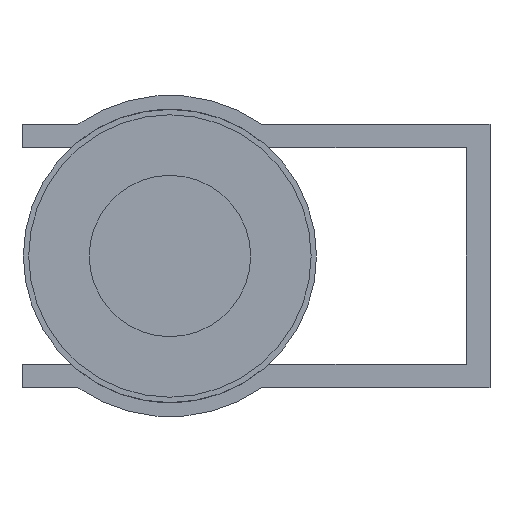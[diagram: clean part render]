
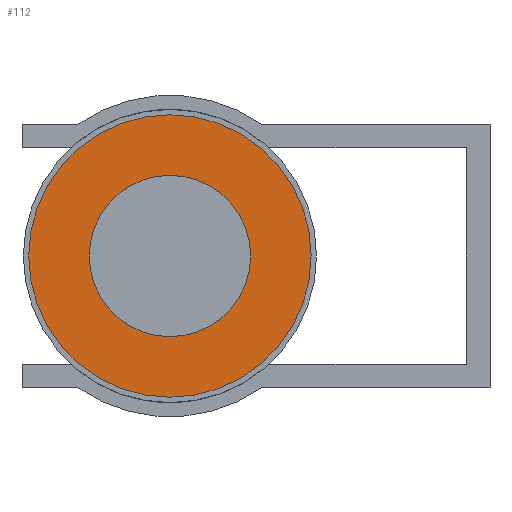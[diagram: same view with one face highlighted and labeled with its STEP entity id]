
A CAD part, left-side view. The second image highlights one B-rep face of the part: STEP entity #112.
In plain terms, the highlighted planar face has unit normal (-1, 0, 0).
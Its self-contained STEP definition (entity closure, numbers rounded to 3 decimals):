
#112=ADVANCED_FACE('',(#225,#226),#227,.F.);
#225=FACE_BOUND('',#362,.T.);
#226=FACE_OUTER_BOUND('',#363,.T.);
#227=PLANE('',#364);
#362=EDGE_LOOP('',(#710));
#363=EDGE_LOOP('',(#711));
#364=AXIS2_PLACEMENT_3D('',#712,#713,#714);
#710=ORIENTED_EDGE('',*,*,#871,.T.);
#711=ORIENTED_EDGE('',*,*,#945,.F.);
#712=CARTESIAN_POINT('',(-45.1,6.0,0.0));
#713=DIRECTION('',(1.0,0.,0.0));
#714=DIRECTION('',(0.,1.0,0.0));
#871=EDGE_CURVE('',#1045,#1045,#1046,.T.);
#945=EDGE_CURVE('',#1159,#1159,#1160,.T.);
#1045=VERTEX_POINT('',#1294);
#1046=CIRCLE('',#1295,6.0);
#1159=VERTEX_POINT('',#1462);
#1160=CIRCLE('',#1463,10.5);
#1294=CARTESIAN_POINT('',(-45.1,6.0,0.0));
#1295=AXIS2_PLACEMENT_3D('',#1549,#1550,#1551);
#1462=CARTESIAN_POINT('',(-45.1,10.5,0.0));
#1463=AXIS2_PLACEMENT_3D('',#1663,#1664,#1665);
#1549=CARTESIAN_POINT('',(-45.1,0.,0.0));
#1550=DIRECTION('',(1.0,0.,0.0));
#1551=DIRECTION('',(0.,1.0,0.0));
#1663=CARTESIAN_POINT('',(-45.1,0.,0.0));
#1664=DIRECTION('',(1.0,0.,0.0));
#1665=DIRECTION('',(0.,1.0,0.0));
